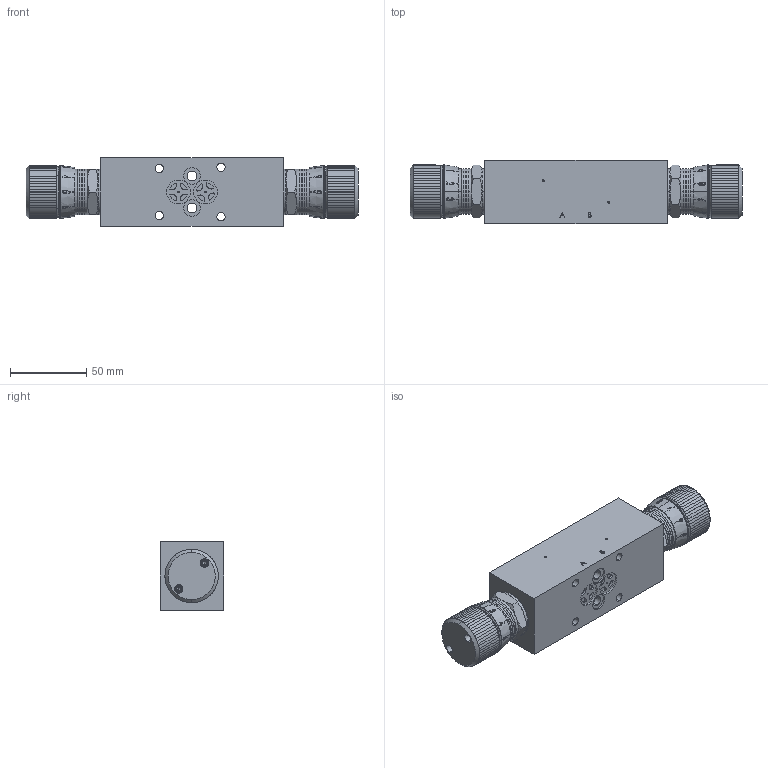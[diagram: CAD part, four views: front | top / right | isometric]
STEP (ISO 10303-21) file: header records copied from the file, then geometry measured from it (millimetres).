
FILE_DESCRIPTION (( 'STEP AP214' ), '1' );
FILE_NAME ('AURD6.STEP', '2017-04-12T14:12:40', ( '' ), ( '' ), 'SwSTEP 2.0', 'SolidWorks 2016', '' );
FILE_SCHEMA (( 'AUTOMOTIVE_DESIGN' ));
Length unit declared in the file: millimetre
Products named in the file (1): AURD6
Bounding box: 218 x 41.5 x 45 mm (x, y, z)
Volume: 299200.2 mm3; surface area: 42361.6 mm2
Topology: 1 solids, 5 shells, 1819 faces, 5041 edges, 3292 vertices
Faces by surface type: plane 1142, cylinder 270, bspline 245, cone 154, torus 8
Entity records: 106602 total; most frequent: CARTESIAN_POINT 44324, ORIENTED_EDGE 10050, DIRECTION 7171, EDGE_CURVE 5025, VERTEX_POINT 3292, AXIS2_PLACEMENT_3D 2641, B_SPLINE_CURVE_WITH_KNOTS 2026, EDGE_LOOP 1911
